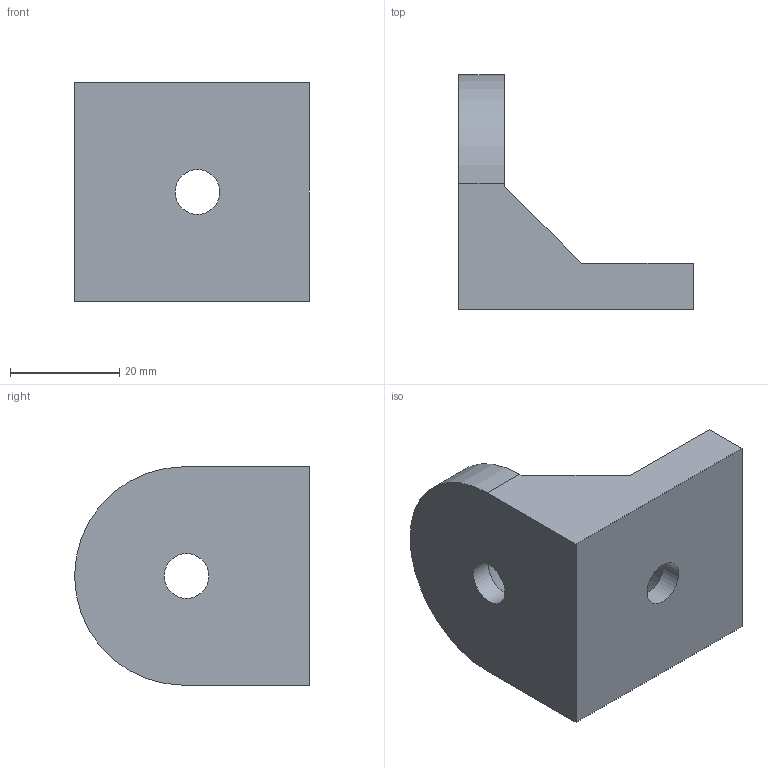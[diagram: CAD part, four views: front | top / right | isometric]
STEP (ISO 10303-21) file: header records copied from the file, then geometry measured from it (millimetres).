
FILE_DESCRIPTION((''),'2;1');
FILE_NAME('E:\catalogue and flyer\Profile catalogue 2015\Accessories JE info\Accessories-JE step file 31MAr16\JE-AB4343-10.stp','2016-03-31T14:55:40',('h029'),(''),'Autodesk Inventor 11','Autodesk Inventor 11','');
FILE_SCHEMA(('AUTOMOTIVE_DESIGN { 1 0 10303 214 1 1 1 1 }'));
Length unit declared in the file: millimetre
Products named in the file (1): Angle Bracket 40x43x43
Bounding box: 43 x 43 x 40 mm (x, y, z)
Volume: 23946.2 mm3; surface area: 8173.4 mm2
Topology: 1 solids, 1 shells, 16 faces, 42 edges, 28 vertices
Faces by surface type: plane 11, bspline 4, cylinder 1
Entity records: 539 total; most frequent: CARTESIAN_POINT 147, ORIENTED_EDGE 72, DIRECTION 70, EDGE_CURVE 36, VECTOR 28, LINE 28, VERTEX_POINT 26, EDGE_LOOP 24
